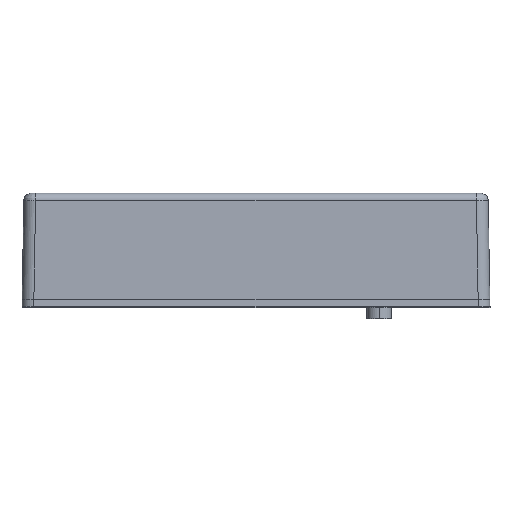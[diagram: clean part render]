
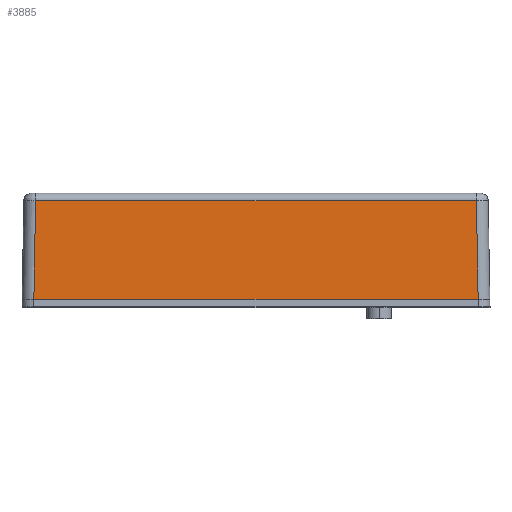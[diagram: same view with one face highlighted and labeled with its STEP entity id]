
A CAD part, top view. The second image highlights one B-rep face of the part: STEP entity #3885.
In plain terms, the highlighted planar face has unit normal (0, 0.018, 1).
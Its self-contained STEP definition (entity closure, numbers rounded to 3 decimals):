
#1583 = CARTESIAN_POINT ( 'NONE',  ( 56.784, 12.4, 48.284 ) ) ;
#2145 = ORIENTED_EDGE ( 'NONE', *, *, #20799, .T. ) ;
#3885 = ADVANCED_FACE ( 'NONE', ( #43262 ), #16815, .T. ) ;
#4103 = CARTESIAN_POINT ( 'NONE',  ( 56.312, 39.448, 47.811 ) ) ;
#4508 = CARTESIAN_POINT ( 'NONE',  ( 56.345, 37.535, 47.845 ) ) ;
#4795 = DIRECTION ( 'NONE',  ( 0., 0.017, 1. ) ) ;
#4812 = EDGE_CURVE ( 'NONE', #19325, #15231, #22920, .T. ) ;
#5082 = VECTOR ( 'NONE', #47232, 1000. ) ;
#6984 = DIRECTION ( 'NONE',  ( -1., 0., 0. ) ) ;
#8140 = EDGE_CURVE ( 'NONE', #15132, #15231, #38599, .T. ) ;
#10659 = CARTESIAN_POINT ( 'NONE',  ( -56.345, 37.535, 47.845 ) ) ;
#14054 = VECTOR ( 'NONE', #19011, 1000. ) ;
#15132 = VERTEX_POINT ( 'NONE', #1583 ) ;
#15231 = VERTEX_POINT ( 'NONE', #35869 ) ;
#15355 = LINE ( 'NONE', #40445, #41371 ) ;
#16815 = PLANE ( 'NONE',  #30920 ) ;
#17078 = DIRECTION ( 'NONE',  ( 0., -1., 0.017 ) ) ;
#17747 = ORIENTED_EDGE ( 'NONE', *, *, #30112, .T. ) ;
#18739 = CARTESIAN_POINT ( 'NONE',  ( -56.965, 2.041, 48.464 ) ) ;
#19011 = DIRECTION ( 'NONE',  ( -0.017, -1., 0.017 ) ) ;
#19325 = VERTEX_POINT ( 'NONE', #10659 ) ;
#19755 = ORIENTED_EDGE ( 'NONE', *, *, #8140, .F. ) ;
#20799 = EDGE_CURVE ( 'NONE', #15132, #21400, #24489, .T. ) ;
#21400 = VERTEX_POINT ( 'NONE', #4508 ) ;
#22920 = LINE ( 'NONE', #18739, #14054 ) ;
#24489 = LINE ( 'NONE', #4103, #44716 ) ;
#30112 = EDGE_CURVE ( 'NONE', #21400, #19325, #15355, .T. ) ;
#30234 = CARTESIAN_POINT ( 'NONE',  ( 60., 12.4, 48.284 ) ) ;
#30920 = AXIS2_PLACEMENT_3D ( 'NONE', #47432, #4795, #17078 ) ;
#32824 = ORIENTED_EDGE ( 'NONE', *, *, #4812, .T. ) ;
#35869 = CARTESIAN_POINT ( 'NONE',  ( -56.784, 12.4, 48.284 ) ) ;
#38599 = LINE ( 'NONE', #30234, #5082 ) ;
#40445 = CARTESIAN_POINT ( 'NONE',  ( -56.311, 37.535, 47.845 ) ) ;
#41371 = VECTOR ( 'NONE', #6984, 1000. ) ;
#42023 = DIRECTION ( 'NONE',  ( -0.017, 1., -0.017 ) ) ;
#43262 = FACE_OUTER_BOUND ( 'NONE', #45503, .T. ) ;
#44716 = VECTOR ( 'NONE', #42023, 1000. ) ;
#45503 = EDGE_LOOP ( 'NONE', ( #2145, #17747, #32824, #19755 ) ) ;
#47232 = DIRECTION ( 'NONE',  ( -1., 0., 0. ) ) ;
#47432 = CARTESIAN_POINT ( 'NONE',  ( 60., 0., 48.5 ) ) ;
